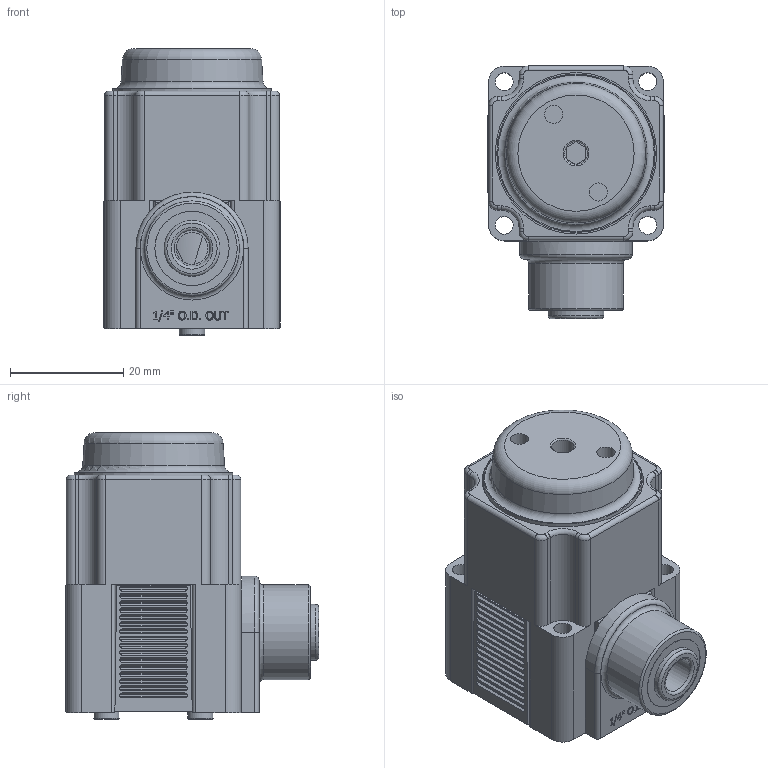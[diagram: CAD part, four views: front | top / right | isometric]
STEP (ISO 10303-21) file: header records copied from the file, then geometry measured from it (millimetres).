
FILE_DESCRIPTION(/* description */ (''),/* implementation_level */ '2;1');
FILE_NAME(/* name */ 'K:\Normteile INVENTOR\Air-Logic\Regulators\PR6000\PR 6___ 5 Push-In Fitting for 1''4 O.D. Tube Out.igs.ipt.stp',/* time_stamp */ '2020-05-27T10:53:00+02:00',/* author */ ('Paul'),/* organization */ (''),/* preprocessor_version */ 'ST-DEVELOPER v18',/* originating_system */ 'Autodesk Inventor 2020',/* authorisation */ '');
FILE_SCHEMA (('AUTOMOTIVE_DESIGN { 1 0 10303 214 3 1 1 }'));
Length unit declared in the file: inch
Products named in the file (1): PR 6___ 5 Push-In Fitting for 1'4 O.D. Tube Out.igs
Bounding box: 31.19 x 44.8 x 50.78 mm (x, y, z)
Volume: 41901.3 mm3; surface area: 14629.1 mm2
Topology: 1 solids, 1 shells, 785 faces, 2025 edges, 1335 vertices
Faces by surface type: plane 409, cylinder 274, bspline 65, torus 34, cone 3
Full cylindrical faces by diameter (mm): 1.194 x1, 2.032 x1, 3.124 x2, 3.175 x8, 3.226 x2, 4.013 x1, 4.521 x2, 5.639 x1, 6.35 x1, 8.382 x2, 9.169 x1, 9.398 x1, 9.906 x1, 12.903 x1, 13.132 x1, 13.145 x1, 16.764 x1, 25.781 x1, 28.047 x1, 28.575 x1
Entity records: 28016 total; most frequent: CARTESIAN_POINT 7775, DIRECTION 4077, ORIENTED_EDGE 4050, EDGE_CURVE 2025, AXIS2_PLACEMENT_3D 1552, VERTEX_POINT 1335, LINE 973, VECTOR 973
